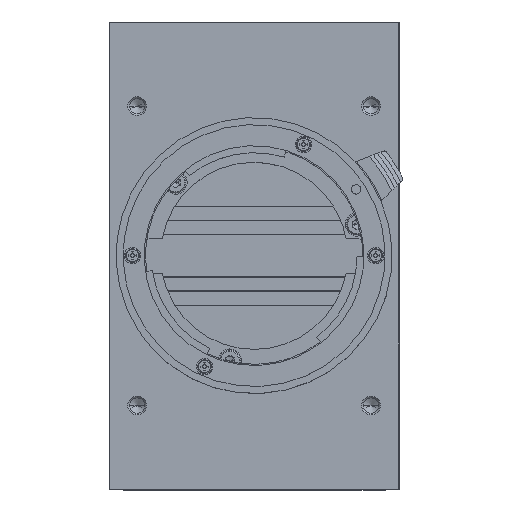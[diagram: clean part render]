
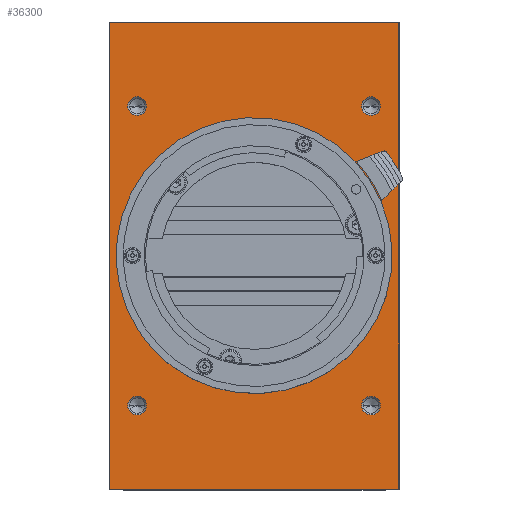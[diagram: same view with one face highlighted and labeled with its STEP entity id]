
A CAD part, top view. The second image highlights one B-rep face of the part: STEP entity #36300.
In plain terms, the highlighted planar face has unit normal (0, 0, 1).
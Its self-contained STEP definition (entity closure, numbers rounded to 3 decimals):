
#1292 = VERTEX_POINT ( 'NONE', #11333 ) ;
#1317 = CARTESIAN_POINT ( 'NONE',  ( 6., 82., 0. ) ) ;
#1458 = EDGE_LOOP ( 'NONE', ( #6549, #23364 ) ) ;
#1648 = CARTESIAN_POINT ( 'NONE',  ( 8., 18., 0. ) ) ;
#2768 = VERTEX_POINT ( 'NONE', #39773 ) ;
#3144 = VERTEX_POINT ( 'NONE', #41869 ) ;
#3206 = DIRECTION ( 'NONE',  ( 1., 0., 0. ) ) ;
#3382 = AXIS2_PLACEMENT_3D ( 'NONE', #34225, #11445, #38049 ) ;
#3744 = CARTESIAN_POINT ( 'NONE',  ( 54., 82., 0. ) ) ;
#4297 = VERTEX_POINT ( 'NONE', #3744 ) ;
#4626 = AXIS2_PLACEMENT_3D ( 'NONE', #28433, #5703, #3206 ) ;
#4940 = VERTEX_POINT ( 'NONE', #49145 ) ;
#5420 = CARTESIAN_POINT ( 'NONE',  ( 56., 82., 0. ) ) ;
#5473 = EDGE_CURVE ( 'NONE', #25737, #28193, #10534, .T. ) ;
#5703 = DIRECTION ( 'NONE',  ( 0., 0., 1. ) ) ;
#6233 = DIRECTION ( 'NONE',  ( 0., 0., 1. ) ) ;
#6549 = ORIENTED_EDGE ( 'NONE', *, *, #36502, .F. ) ;
#7141 = DIRECTION ( 'NONE',  ( 1., 0., 0. ) ) ;
#7294 = EDGE_LOOP ( 'NONE', ( #39216, #22195 ) ) ;
#7359 = DIRECTION ( 'NONE',  ( 1., 0., 0. ) ) ;
#7693 = DIRECTION ( 'NONE',  ( 1., 0., 0. ) ) ;
#8204 = DIRECTION ( 'NONE',  ( 0., -1., 0. ) ) ;
#8452 = ORIENTED_EDGE ( 'NONE', *, *, #34789, .T. ) ;
#8842 = EDGE_CURVE ( 'NONE', #4297, #21114, #34044, .T. ) ;
#9008 = EDGE_CURVE ( 'NONE', #4940, #31393, #38188, .T. ) ;
#9540 = CARTESIAN_POINT ( 'NONE',  ( 58., 82., 0. ) ) ;
#9557 = DIRECTION ( 'NONE',  ( 0., 0., 1. ) ) ;
#10035 = DIRECTION ( 'NONE',  ( 1., 0., 0. ) ) ;
#10127 = FACE_OUTER_BOUND ( 'NONE', #21984, .T. ) ;
#10534 = CIRCLE ( 'NONE', #4626, 2. ) ;
#10805 = AXIS2_PLACEMENT_3D ( 'NONE', #11397, #45426, #30855 ) ;
#10838 = CARTESIAN_POINT ( 'NONE',  ( 31., 50., 0. ) ) ;
#11250 = AXIS2_PLACEMENT_3D ( 'NONE', #10838, #48535, #7359 ) ;
#11333 = CARTESIAN_POINT ( 'NONE',  ( 61.9, 99.9, 0. ) ) ;
#11397 = CARTESIAN_POINT ( 'NONE',  ( 56., 82., 0. ) ) ;
#11445 = DIRECTION ( 'NONE',  ( 0., 0., -1. ) ) ;
#11634 = VERTEX_POINT ( 'NONE', #30431 ) ;
#12191 = EDGE_LOOP ( 'NONE', ( #39876, #22029 ) ) ;
#14666 = EDGE_LOOP ( 'NONE', ( #36548, #29886 ) ) ;
#14687 = CARTESIAN_POINT ( 'NONE',  ( 56., 18., 0. ) ) ;
#16486 = DIRECTION ( 'NONE',  ( 0., 1., 0. ) ) ;
#17499 = CARTESIAN_POINT ( 'NONE',  ( 0., 0., 0. ) ) ;
#18459 = ORIENTED_EDGE ( 'NONE', *, *, #25456, .T. ) ;
#18527 = EDGE_CURVE ( 'NONE', #21114, #4297, #28685, .T. ) ;
#18600 = CIRCLE ( 'NONE', #3382, 28. ) ;
#19363 = ORIENTED_EDGE ( 'NONE', *, *, #29340, .T. ) ;
#19469 = DIRECTION ( 'NONE',  ( 0., 0., 1. ) ) ;
#20165 = CIRCLE ( 'NONE', #20571, 2. ) ;
#20214 = FACE_BOUND ( 'NONE', #1458, .T. ) ;
#20477 = DIRECTION ( 'NONE',  ( 1., 0., 0. ) ) ;
#20571 = AXIS2_PLACEMENT_3D ( 'NONE', #30459, #26954, #7693 ) ;
#21111 = VECTOR ( 'NONE', #16486, 1000. ) ;
#21114 = VERTEX_POINT ( 'NONE', #9540 ) ;
#21168 = VERTEX_POINT ( 'NONE', #46893 ) ;
#21605 = VECTOR ( 'NONE', #8204, 1000. ) ;
#21721 = LINE ( 'NONE', #39270, #21111 ) ;
#21814 = AXIS2_PLACEMENT_3D ( 'NONE', #22030, #19469, #30790 ) ;
#21981 = FACE_BOUND ( 'NONE', #47680, .T. ) ;
#21984 = EDGE_LOOP ( 'NONE', ( #19363, #30613, #31055, #27687 ) ) ;
#22029 = ORIENTED_EDGE ( 'NONE', *, *, #9008, .F. ) ;
#22030 = CARTESIAN_POINT ( 'NONE',  ( 6., 82., 0. ) ) ;
#22195 = ORIENTED_EDGE ( 'NONE', *, *, #47473, .F. ) ;
#22228 = CIRCLE ( 'NONE', #49103, 2. ) ;
#22414 = CARTESIAN_POINT ( 'NONE',  ( 61.9, 0.1, 0. ) ) ;
#22677 = EDGE_CURVE ( 'NONE', #29746, #1292, #21721, .T. ) ;
#22749 = AXIS2_PLACEMENT_3D ( 'NONE', #30213, #48469, #7141 ) ;
#23364 = ORIENTED_EDGE ( 'NONE', *, *, #44657, .F. ) ;
#23498 = AXIS2_PLACEMENT_3D ( 'NONE', #1317, #46434, #34665 ) ;
#23770 = VERTEX_POINT ( 'NONE', #1648 ) ;
#24987 = LINE ( 'NONE', #49118, #46932 ) ;
#25456 = EDGE_CURVE ( 'NONE', #21168, #2768, #33397, .T. ) ;
#25489 = CARTESIAN_POINT ( 'NONE',  ( 8., 82., 0. ) ) ;
#25737 = VERTEX_POINT ( 'NONE', #31589 ) ;
#26115 = EDGE_CURVE ( 'NONE', #41154, #29746, #24987, .T. ) ;
#26954 = DIRECTION ( 'NONE',  ( 0., 0., 1. ) ) ;
#27687 = ORIENTED_EDGE ( 'NONE', *, *, #45288, .T. ) ;
#28193 = VERTEX_POINT ( 'NONE', #37551 ) ;
#28433 = CARTESIAN_POINT ( 'NONE',  ( 56., 18., 0. ) ) ;
#28685 = CIRCLE ( 'NONE', #48392, 2. ) ;
#29266 = CIRCLE ( 'NONE', #21814, 2. ) ;
#29340 = EDGE_CURVE ( 'NONE', #3144, #41154, #38908, .T. ) ;
#29483 = DIRECTION ( 'NONE',  ( 0., 0., 1. ) ) ;
#29746 = VERTEX_POINT ( 'NONE', #22414 ) ;
#29886 = ORIENTED_EDGE ( 'NONE', *, *, #8842, .F. ) ;
#30213 = CARTESIAN_POINT ( 'NONE',  ( 6., 18., 0. ) ) ;
#30431 = CARTESIAN_POINT ( 'NONE',  ( 4., 18., 0. ) ) ;
#30459 = CARTESIAN_POINT ( 'NONE',  ( 6., 18., 0. ) ) ;
#30613 = ORIENTED_EDGE ( 'NONE', *, *, #26115, .T. ) ;
#30790 = DIRECTION ( 'NONE',  ( 1., 0., 0. ) ) ;
#30855 = DIRECTION ( 'NONE',  ( 1., 0., 0. ) ) ;
#31055 = ORIENTED_EDGE ( 'NONE', *, *, #22677, .T. ) ;
#31393 = VERTEX_POINT ( 'NONE', #25489 ) ;
#31589 = CARTESIAN_POINT ( 'NONE',  ( 58., 18., 0. ) ) ;
#33330 = FACE_BOUND ( 'NONE', #12191, .T. ) ;
#33364 = AXIS2_PLACEMENT_3D ( 'NONE', #17499, #6233, #10035 ) ;
#33397 = CIRCLE ( 'NONE', #11250, 28. ) ;
#33556 = DIRECTION ( 'NONE',  ( 1., 0., 0. ) ) ;
#34044 = CIRCLE ( 'NONE', #10805, 2. ) ;
#34225 = CARTESIAN_POINT ( 'NONE',  ( 31., 50., 0. ) ) ;
#34665 = DIRECTION ( 'NONE',  ( 1., 0., 0. ) ) ;
#34789 = EDGE_CURVE ( 'NONE', #2768, #21168, #18600, .T. ) ;
#35134 = FACE_BOUND ( 'NONE', #14666, .T. ) ;
#35165 = EDGE_CURVE ( 'NONE', #31393, #4940, #29266, .T. ) ;
#35552 = LINE ( 'NONE', #46157, #37231 ) ;
#36300 = ADVANCED_FACE ( 'NONE', ( #21981, #10127, #35134, #33330, #41654, #20214 ), #40937, .T. ) ;
#36502 = EDGE_CURVE ( 'NONE', #23770, #11634, #20165, .T. ) ;
#36548 = ORIENTED_EDGE ( 'NONE', *, *, #18527, .F. ) ;
#37231 = VECTOR ( 'NONE', #42204, 1000. ) ;
#37551 = CARTESIAN_POINT ( 'NONE',  ( 54., 18., 0. ) ) ;
#38049 = DIRECTION ( 'NONE',  ( 1., 0., 0. ) ) ;
#38188 = CIRCLE ( 'NONE', #23498, 2. ) ;
#38793 = CARTESIAN_POINT ( 'NONE',  ( 0.1, 0., 0. ) ) ;
#38908 = LINE ( 'NONE', #38793, #21605 ) ;
#39216 = ORIENTED_EDGE ( 'NONE', *, *, #5473, .F. ) ;
#39270 = CARTESIAN_POINT ( 'NONE',  ( 61.9, 0., 0. ) ) ;
#39773 = CARTESIAN_POINT ( 'NONE',  ( 3., 50., 0. ) ) ;
#39876 = ORIENTED_EDGE ( 'NONE', *, *, #35165, .F. ) ;
#40161 = CARTESIAN_POINT ( 'NONE',  ( 0.1, 0.1, 0. ) ) ;
#40937 = PLANE ( 'NONE',  #33364 ) ;
#41154 = VERTEX_POINT ( 'NONE', #40161 ) ;
#41654 = FACE_BOUND ( 'NONE', #7294, .T. ) ;
#41869 = CARTESIAN_POINT ( 'NONE',  ( 0.1, 99.9, 0. ) ) ;
#42204 = DIRECTION ( 'NONE',  ( -1., 0., 0. ) ) ;
#44657 = EDGE_CURVE ( 'NONE', #11634, #23770, #49185, .T. ) ;
#45288 = EDGE_CURVE ( 'NONE', #1292, #3144, #35552, .T. ) ;
#45426 = DIRECTION ( 'NONE',  ( 0., 0., 1. ) ) ;
#46157 = CARTESIAN_POINT ( 'NONE',  ( 0., 99.9, 0. ) ) ;
#46434 = DIRECTION ( 'NONE',  ( 0., 0., 1. ) ) ;
#46893 = CARTESIAN_POINT ( 'NONE',  ( 59., 50., 0. ) ) ;
#46932 = VECTOR ( 'NONE', #33556, 1000. ) ;
#47473 = EDGE_CURVE ( 'NONE', #28193, #25737, #22228, .T. ) ;
#47680 = EDGE_LOOP ( 'NONE', ( #18459, #8452 ) ) ;
#48392 = AXIS2_PLACEMENT_3D ( 'NONE', #5420, #9557, #20477 ) ;
#48469 = DIRECTION ( 'NONE',  ( 0., 0., 1. ) ) ;
#48535 = DIRECTION ( 'NONE',  ( 0., 0., -1. ) ) ;
#49103 = AXIS2_PLACEMENT_3D ( 'NONE', #14687, #29483, #49198 ) ;
#49118 = CARTESIAN_POINT ( 'NONE',  ( 0., 0.1, 0. ) ) ;
#49145 = CARTESIAN_POINT ( 'NONE',  ( 4., 82., 0. ) ) ;
#49185 = CIRCLE ( 'NONE', #22749, 2. ) ;
#49198 = DIRECTION ( 'NONE',  ( 1., 0., 0. ) ) ;
